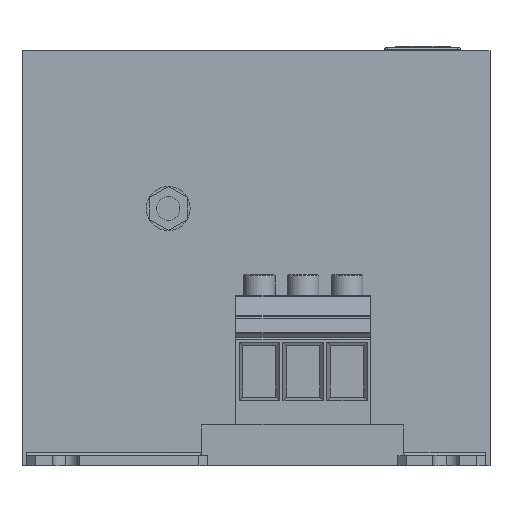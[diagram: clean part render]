
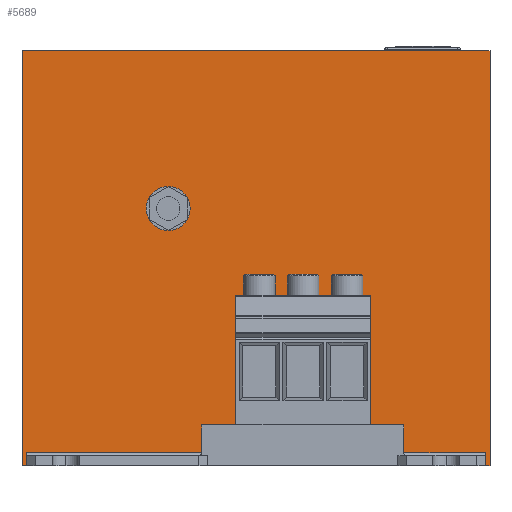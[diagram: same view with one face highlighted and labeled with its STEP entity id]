
A CAD part, front view. The second image highlights one B-rep face of the part: STEP entity #5689.
In plain terms, the highlighted planar face has unit normal (0, -1, 0).
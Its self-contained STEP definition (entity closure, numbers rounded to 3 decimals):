
#15 = VECTOR ( 'NONE', #4693, 1000. ) ;
#19 = EDGE_CURVE ( 'NONE', #7559, #3799, #6475, .T. ) ;
#135 = CARTESIAN_POINT ( 'NONE',  ( -80., -198.5, 377.656 ) ) ;
#179 = PLANE ( 'NONE',  #8156 ) ;
#220 = CARTESIAN_POINT ( 'NONE',  ( -6.874, -198.5, 377.656 ) ) ;
#397 = CARTESIAN_POINT ( 'NONE',  ( 39.126, -198.5, 377.656 ) ) ;
#403 = DIRECTION ( 'NONE',  ( 0., -1., 0. ) ) ;
#405 = CARTESIAN_POINT ( 'NONE',  ( 50.5, -198.5, 377.656 ) ) ;
#446 = VERTEX_POINT ( 'NONE', #6234 ) ;
#454 = EDGE_CURVE ( 'NONE', #8728, #7724, #2191, .T. ) ;
#639 = VERTEX_POINT ( 'NONE', #6050 ) ;
#761 = CARTESIAN_POINT ( 'NONE',  ( -18.5, -198.5, 377.656 ) ) ;
#824 = VECTOR ( 'NONE', #7910, 1000. ) ;
#865 = FACE_OUTER_BOUND ( 'NONE', #6931, .T. ) ;
#893 = ORIENTED_EDGE ( 'NONE', *, *, #903, .T. ) ;
#903 = EDGE_CURVE ( 'NONE', #2890, #8031, #6271, .T. ) ;
#912 = FACE_BOUND ( 'NONE', #4518, .T. ) ;
#950 = LINE ( 'NONE', #3662, #5585 ) ;
#1064 = LINE ( 'NONE', #5193, #824 ) ;
#1079 = ORIENTED_EDGE ( 'NONE', *, *, #5288, .F. ) ;
#1107 = EDGE_CURVE ( 'NONE', #7916, #2420, #1064, .T. ) ;
#1116 = LINE ( 'NONE', #405, #6530 ) ;
#1118 = EDGE_CURVE ( 'NONE', #6501, #5784, #1782, .T. ) ;
#1174 = CARTESIAN_POINT ( 'NONE',  ( 78.5, -198.5, 0. ) ) ;
#1513 = ORIENTED_EDGE ( 'NONE', *, *, #2135, .F. ) ;
#1517 = VECTOR ( 'NONE', #8814, 1000. ) ;
#1531 = VECTOR ( 'NONE', #3788, 1000. ) ;
#1637 = LINE ( 'NONE', #2978, #7455 ) ;
#1652 = DIRECTION ( 'NONE',  ( 0., 0., -1. ) ) ;
#1721 = CARTESIAN_POINT ( 'NONE',  ( -30., -198.5, 95.51 ) ) ;
#1782 = LINE ( 'NONE', #5462, #5799 ) ;
#1834 = LINE ( 'NONE', #5155, #4408 ) ;
#1906 = EDGE_CURVE ( 'NONE', #4873, #2420, #4314, .T. ) ;
#1931 = ORIENTED_EDGE ( 'NONE', *, *, #3146, .F. ) ;
#1970 = AXIS2_PLACEMENT_3D ( 'NONE', #6523, #403, #7293 ) ;
#2077 = EDGE_CURVE ( 'NONE', #446, #7011, #1116, .T. ) ;
#2135 = EDGE_CURVE ( 'NONE', #2890, #7559, #3982, .T. ) ;
#2150 = CARTESIAN_POINT ( 'NONE',  ( 78.3, -198.5, 4.51 ) ) ;
#2191 = LINE ( 'NONE', #2150, #1517 ) ;
#2218 = DIRECTION ( 'NONE',  ( 0., 0., 1. ) ) ;
#2294 = ORIENTED_EDGE ( 'NONE', *, *, #7742, .F. ) ;
#2316 = CARTESIAN_POINT ( 'NONE',  ( 78.3, -198.5, 4.51 ) ) ;
#2385 = ORIENTED_EDGE ( 'NONE', *, *, #1118, .F. ) ;
#2420 = VERTEX_POINT ( 'NONE', #2480 ) ;
#2457 = CARTESIAN_POINT ( 'NONE',  ( -80., -198.5, 142.01 ) ) ;
#2476 = ORIENTED_EDGE ( 'NONE', *, *, #1906, .T. ) ;
#2480 = CARTESIAN_POINT ( 'NONE',  ( -6.874, -198.5, 58.31 ) ) ;
#2500 = DIRECTION ( 'NONE',  ( -1., 0., 0. ) ) ;
#2663 = CARTESIAN_POINT ( 'NONE',  ( -80., -198.5, 0. ) ) ;
#2667 = VECTOR ( 'NONE', #5378, 1000. ) ;
#2840 = EDGE_CURVE ( 'NONE', #6288, #8031, #1834, .T. ) ;
#2890 = VERTEX_POINT ( 'NONE', #2457 ) ;
#2978 = CARTESIAN_POINT ( 'NONE',  ( -78.5, -198.5, 377.656 ) ) ;
#3036 = CARTESIAN_POINT ( 'NONE',  ( 78.5, -198.5, 4.51 ) ) ;
#3100 = VECTOR ( 'NONE', #2218, 1000. ) ;
#3108 = CARTESIAN_POINT ( 'NONE',  ( 39.126, -198.5, 58.31 ) ) ;
#3121 = DIRECTION ( 'NONE',  ( 0., 0., 1. ) ) ;
#3146 = EDGE_CURVE ( 'NONE', #7052, #639, #5835, .T. ) ;
#3194 = EDGE_CURVE ( 'NONE', #639, #7052, #6984, .T. ) ;
#3448 = DIRECTION ( 'NONE',  ( 1., 0., 0. ) ) ;
#3506 = LINE ( 'NONE', #761, #15 ) ;
#3532 = VECTOR ( 'NONE', #3930, 1000. ) ;
#3531 = DIRECTION ( 'NONE',  ( 1., 0., 0. ) ) ;
#3660 = CARTESIAN_POINT ( 'NONE',  ( 80., -198.5, 377.656 ) ) ;
#3662 = CARTESIAN_POINT ( 'NONE',  ( 80., -198.5, 14.01 ) ) ;
#3678 = CARTESIAN_POINT ( 'NONE',  ( 80., -198.5, 0. ) ) ;
#3693 = CARTESIAN_POINT ( 'NONE',  ( 80., -198.5, 0. ) ) ;
#3788 = DIRECTION ( 'NONE',  ( 0., 0., -1. ) ) ;
#3799 = VERTEX_POINT ( 'NONE', #3678 ) ;
#3863 = VECTOR ( 'NONE', #7036, 1000. ) ;
#3930 = DIRECTION ( 'NONE',  ( 1., 0., 0. ) ) ;
#3982 = LINE ( 'NONE', #5953, #3532 ) ;
#3987 = CARTESIAN_POINT ( 'NONE',  ( -78.5, -198.5, 4.51 ) ) ;
#4135 = LINE ( 'NONE', #4670, #4166 ) ;
#4166 = VECTOR ( 'NONE', #3448, 1000. ) ;
#4314 = LINE ( 'NONE', #220, #3100 ) ;
#4408 = VECTOR ( 'NONE', #2500, 1000. ) ;
#4411 = ORIENTED_EDGE ( 'NONE', *, *, #8625, .F. ) ;
#4518 = EDGE_LOOP ( 'NONE', ( #1931, #7974 ) ) ;
#4645 = ORIENTED_EDGE ( 'NONE', *, *, #6687, .T. ) ;
#4670 = CARTESIAN_POINT ( 'NONE',  ( 80., -198.5, 14.01 ) ) ;
#4693 = DIRECTION ( 'NONE',  ( 0., 0., -1. ) ) ;
#4735 = ORIENTED_EDGE ( 'NONE', *, *, #7067, .F. ) ;
#4774 = CARTESIAN_POINT ( 'NONE',  ( -78.5, -198.5, 0. ) ) ;
#4828 = ORIENTED_EDGE ( 'NONE', *, *, #19, .F. ) ;
#4842 = LINE ( 'NONE', #3693, #5168 ) ;
#4873 = VERTEX_POINT ( 'NONE', #8212 ) ;
#4928 = DIRECTION ( 'NONE',  ( 0., 0., -1. ) ) ;
#5103 = ORIENTED_EDGE ( 'NONE', *, *, #454, .F. ) ;
#5155 = CARTESIAN_POINT ( 'NONE',  ( 80., -198.5, 0. ) ) ;
#5168 = VECTOR ( 'NONE', #5705, 1000. ) ;
#5193 = CARTESIAN_POINT ( 'NONE',  ( 80., -198.5, 58.31 ) ) ;
#5201 = ORIENTED_EDGE ( 'NONE', *, *, #6629, .T. ) ;
#5285 = DIRECTION ( 'NONE',  ( 0., 0., 1. ) ) ;
#5288 = EDGE_CURVE ( 'NONE', #5784, #446, #8286, .T. ) ;
#5378 = DIRECTION ( 'NONE',  ( 0., 0., -1. ) ) ;
#5462 = CARTESIAN_POINT ( 'NONE',  ( 78.5, -198.5, 377.656 ) ) ;
#5585 = VECTOR ( 'NONE', #3531, 1000. ) ;
#5689 = ADVANCED_FACE ( 'NONE', ( #912, #865 ), #179, .T. ) ;
#5705 = DIRECTION ( 'NONE',  ( -1., 0., 0. ) ) ;
#5753 = DIRECTION ( 'NONE',  ( 0., 0., -1. ) ) ;
#5784 = VERTEX_POINT ( 'NONE', #3036 ) ;
#5799 = VECTOR ( 'NONE', #6076, 1000. ) ;
#5802 = CARTESIAN_POINT ( 'NONE',  ( 80., -198.5, 377.656 ) ) ;
#5835 = CIRCLE ( 'NONE', #1970, 7.5 ) ;
#5884 = ORIENTED_EDGE ( 'NONE', *, *, #7819, .F. ) ;
#5953 = CARTESIAN_POINT ( 'NONE',  ( 80., -198.5, 142.01 ) ) ;
#5964 = ORIENTED_EDGE ( 'NONE', *, *, #2077, .F. ) ;
#6037 = ORIENTED_EDGE ( 'NONE', *, *, #2840, .F. ) ;
#6050 = CARTESIAN_POINT ( 'NONE',  ( -30., -198.5, 80.51 ) ) ;
#6076 = DIRECTION ( 'NONE',  ( 0., 0., 1. ) ) ;
#6234 = CARTESIAN_POINT ( 'NONE',  ( 50.5, -198.5, 4.51 ) ) ;
#6271 = LINE ( 'NONE', #135, #2667 ) ;
#6288 = VERTEX_POINT ( 'NONE', #4774 ) ;
#6475 = LINE ( 'NONE', #5802, #1531 ) ;
#6501 = VERTEX_POINT ( 'NONE', #1174 ) ;
#6517 = LINE ( 'NONE', #397, #7037 ) ;
#6523 = CARTESIAN_POINT ( 'NONE',  ( -30., -198.5, 88.01 ) ) ;
#6530 = VECTOR ( 'NONE', #5285, 1000. ) ;
#6550 = CARTESIAN_POINT ( 'NONE',  ( 50.5, -198.5, 14.01 ) ) ;
#6629 = EDGE_CURVE ( 'NONE', #6965, #7011, #4135, .T. ) ;
#6687 = EDGE_CURVE ( 'NONE', #8199, #4873, #950, .T. ) ;
#6809 = CARTESIAN_POINT ( 'NONE',  ( 80., -198.5, 142.01 ) ) ;
#6843 = AXIS2_PLACEMENT_3D ( 'NONE', #7870, #7200, #1652 ) ;
#6931 = EDGE_LOOP ( 'NONE', ( #1079, #2385, #5884, #4828, #1513, #893, #6037, #2294, #5103, #4735, #4645, #2476, #8487, #4411, #5201, #5964 ) ) ;
#6965 = VERTEX_POINT ( 'NONE', #7367 ) ;
#6984 = CIRCLE ( 'NONE', #6843, 7.5 ) ;
#7011 = VERTEX_POINT ( 'NONE', #6550 ) ;
#7036 = DIRECTION ( 'NONE',  ( -1., 0., 0. ) ) ;
#7037 = VECTOR ( 'NONE', #3121, 1000. ) ;
#7052 = VERTEX_POINT ( 'NONE', #1721 ) ;
#7067 = EDGE_CURVE ( 'NONE', #8199, #8728, #3506, .T. ) ;
#7200 = DIRECTION ( 'NONE',  ( 0., -1., 0. ) ) ;
#7293 = DIRECTION ( 'NONE',  ( 0., 0., -1. ) ) ;
#7367 = CARTESIAN_POINT ( 'NONE',  ( 39.126, -198.5, 14.01 ) ) ;
#7455 = VECTOR ( 'NONE', #5753, 1000. ) ;
#7559 = VERTEX_POINT ( 'NONE', #6809 ) ;
#7720 = CARTESIAN_POINT ( 'NONE',  ( -18.5, -198.5, 14.01 ) ) ;
#7724 = VERTEX_POINT ( 'NONE', #3987 ) ;
#7742 = EDGE_CURVE ( 'NONE', #7724, #6288, #1637, .T. ) ;
#7819 = EDGE_CURVE ( 'NONE', #3799, #6501, #4842, .T. ) ;
#7870 = CARTESIAN_POINT ( 'NONE',  ( -30., -198.5, 88.01 ) ) ;
#7910 = DIRECTION ( 'NONE',  ( -1., 0., 0. ) ) ;
#7916 = VERTEX_POINT ( 'NONE', #3108 ) ;
#7974 = ORIENTED_EDGE ( 'NONE', *, *, #3194, .F. ) ;
#8031 = VERTEX_POINT ( 'NONE', #2663 ) ;
#8156 = AXIS2_PLACEMENT_3D ( 'NONE', #3660, #8275, #4928 ) ;
#8199 = VERTEX_POINT ( 'NONE', #7720 ) ;
#8205 = CARTESIAN_POINT ( 'NONE',  ( -18.5, -198.5, 4.51 ) ) ;
#8212 = CARTESIAN_POINT ( 'NONE',  ( -6.874, -198.5, 14.01 ) ) ;
#8275 = DIRECTION ( 'NONE',  ( 0., -1., 0. ) ) ;
#8286 = LINE ( 'NONE', #2316, #3863 ) ;
#8487 = ORIENTED_EDGE ( 'NONE', *, *, #1107, .F. ) ;
#8625 = EDGE_CURVE ( 'NONE', #6965, #7916, #6517, .T. ) ;
#8728 = VERTEX_POINT ( 'NONE', #8205 ) ;
#8814 = DIRECTION ( 'NONE',  ( -1., 0., 0. ) ) ;
